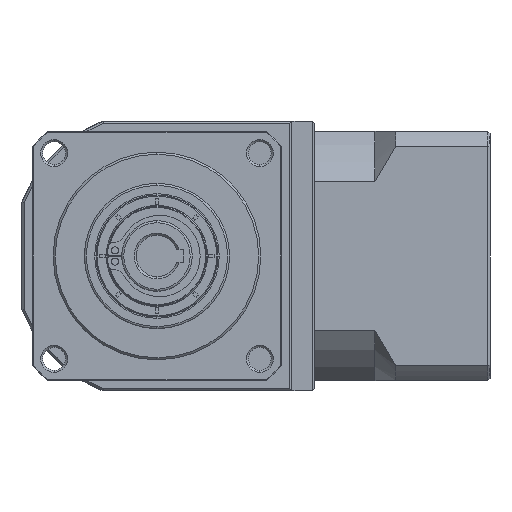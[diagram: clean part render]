
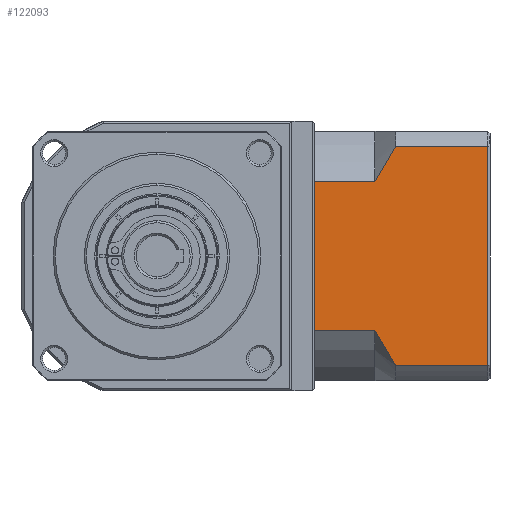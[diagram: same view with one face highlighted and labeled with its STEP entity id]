
A CAD part, left-side view. The second image highlights one B-rep face of the part: STEP entity #122093.
In plain terms, the highlighted planar face has unit normal (-1, 0, 0).
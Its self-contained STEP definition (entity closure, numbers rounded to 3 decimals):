
#701 = CARTESIAN_POINT ( 'NONE',  ( -26.181, -74.918, -106.429 ) ) ;
#3729 = EDGE_CURVE ( 'NONE', #83821, #89816, #16754, .T. ) ;
#4557 = CARTESIAN_POINT ( 'NONE',  ( -26.181, -79.918, -98. ) ) ;
#4931 = CARTESIAN_POINT ( 'NONE',  ( -26.181, -79.918, -98. ) ) ;
#5427 = CARTESIAN_POINT ( 'NONE',  ( -26.181, -79.017, -149.552 ) ) ;
#13553 = PLANE ( 'NONE',  #59898 ) ;
#16754 = LINE ( 'NONE', #39393, #78887 ) ;
#17188 = CARTESIAN_POINT ( 'NONE',  ( -26.181, -78.145, -100.738 ) ) ;
#20806 = LINE ( 'NONE', #129009, #82870 ) ;
#23873 = VECTOR ( 'NONE', #69803, 1000. ) ;
#26275 = ORIENTED_EDGE ( 'NONE', *, *, #71115, .T. ) ;
#28971 = CARTESIAN_POINT ( 'NONE',  ( -26.181, -75.666, -104.977 ) ) ;
#30523 = CARTESIAN_POINT ( 'NONE',  ( -26.181, -74.918, -142.485 ) ) ;
#31974 = EDGE_LOOP ( 'NONE', ( #122064, #124163, #81100, #26275, #52847, #86564, #109392, #51503 ) ) ;
#39393 = CARTESIAN_POINT ( 'NONE',  ( -26.181, -74.918, -150.915 ) ) ;
#40149 = LINE ( 'NONE', #60772, #98618 ) ;
#41979 = VECTOR ( 'NONE', #69238, 1000. ) ;
#51503 = ORIENTED_EDGE ( 'NONE', *, *, #141548, .T. ) ;
#51922 = CARTESIAN_POINT ( 'NONE',  ( -26.181, -75.668, -143.941 ) ) ;
#51985 = CARTESIAN_POINT ( 'NONE',  ( -26.181, -79.918, -150.915 ) ) ;
#52847 = ORIENTED_EDGE ( 'NONE', *, *, #57101, .F. ) ;
#57101 = EDGE_CURVE ( 'NONE', #79700, #144345, #113472, .T. ) ;
#57385 = VERTEX_POINT ( 'NONE', #30523 ) ;
#59898 = AXIS2_PLACEMENT_3D ( 'NONE', #130573, #60498, #142297 ) ;
#60498 = DIRECTION ( 'NONE',  ( 1., 0., 0. ) ) ;
#60772 = CARTESIAN_POINT ( 'NONE',  ( -26.181, -102.118, -154.457 ) ) ;
#67744 = EDGE_CURVE ( 'NONE', #79700, #79577, #135248, .T. ) ;
#69058 = CARTESIAN_POINT ( 'NONE',  ( -26.181, -60.418, -106.429 ) ) ;
#69238 = DIRECTION ( 'NONE',  ( 0., 0., -1. ) ) ;
#69669 = LINE ( 'NONE', #145381, #131868 ) ;
#69803 = DIRECTION ( 'NONE',  ( 0., -1., 0. ) ) ;
#71115 = EDGE_CURVE ( 'NONE', #101742, #144345, #106757, .T. ) ;
#71384 = EDGE_CURVE ( 'NONE', #101742, #135399, #20806, .T. ) ;
#74862 = DIRECTION ( 'NONE',  ( 0., 1., 0. ) ) ;
#75393 = CARTESIAN_POINT ( 'NONE',  ( -26.181, -78.143, -148.172 ) ) ;
#78887 = VECTOR ( 'NONE', #149684, 1000. ) ;
#79577 = VERTEX_POINT ( 'NONE', #111621 ) ;
#79700 = VERTEX_POINT ( 'NONE', #69058 ) ;
#81100 = ORIENTED_EDGE ( 'NONE', *, *, #71384, .F. ) ;
#82870 = VECTOR ( 'NONE', #140735, 1000. ) ;
#83821 = VERTEX_POINT ( 'NONE', #123886 ) ;
#86564 = ORIENTED_EDGE ( 'NONE', *, *, #67744, .T. ) ;
#87144 = CARTESIAN_POINT ( 'NONE',  ( -26.181, -79.918, -150.915 ) ) ;
#89816 = VERTEX_POINT ( 'NONE', #51985 ) ;
#95390 = EDGE_CURVE ( 'NONE', #83821, #135399, #40149, .T. ) ;
#96311 = CARTESIAN_POINT ( 'NONE',  ( -26.181, -102.118, -98. ) ) ;
#98618 = VECTOR ( 'NONE', #143048, 1000. ) ;
#98936 = CARTESIAN_POINT ( 'NONE',  ( -26.181, -76.469, -103.546 ) ) ;
#100514 = B_SPLINE_CURVE_WITH_KNOTS ( 'NONE', 3,
 ( #133695, #51922, #145398, #75393, #5427, #87144 ),
 .UNSPECIFIED., .F., .F.,
 ( 4, 2, 4 ),
 ( 0.1, 0.104, 0.109 ),
 .UNSPECIFIED. ) ;
#101742 = VERTEX_POINT ( 'NONE', #4557 ) ;
#106757 = B_SPLINE_CURVE_WITH_KNOTS ( 'NONE', 3,
 ( #4931, #145415, #17188, #98936, #28971, #110706 ),
 .UNSPECIFIED., .F., .F.,
 ( 4, 2, 4 ),
 ( 0.052, 0.057, 0.062 ),
 .UNSPECIFIED. ) ;
#109392 = ORIENTED_EDGE ( 'NONE', *, *, #139979, .F. ) ;
#110706 = CARTESIAN_POINT ( 'NONE',  ( -26.181, -74.918, -106.429 ) ) ;
#111621 = CARTESIAN_POINT ( 'NONE',  ( -26.181, -60.418, -142.485 ) ) ;
#113472 = LINE ( 'NONE', #139863, #23873 ) ;
#118833 = FACE_OUTER_BOUND ( 'NONE', #31974, .T. ) ;
#122064 = ORIENTED_EDGE ( 'NONE', *, *, #3729, .F. ) ;
#122093 = ADVANCED_FACE ( 'NONE', ( #118833 ), #13553, .F. ) ;
#123886 = CARTESIAN_POINT ( 'NONE',  ( -26.181, -102.118, -150.915 ) ) ;
#124163 = ORIENTED_EDGE ( 'NONE', *, *, #95390, .T. ) ;
#129009 = CARTESIAN_POINT ( 'NONE',  ( -26.181, -74.918, -98. ) ) ;
#130573 = CARTESIAN_POINT ( 'NONE',  ( -26.181, -102.618, -154.457 ) ) ;
#131868 = VECTOR ( 'NONE', #74862, 1000. ) ;
#133695 = CARTESIAN_POINT ( 'NONE',  ( -26.181, -74.918, -142.485 ) ) ;
#135248 = LINE ( 'NONE', #150509, #41979 ) ;
#135399 = VERTEX_POINT ( 'NONE', #96311 ) ;
#139863 = CARTESIAN_POINT ( 'NONE',  ( -26.181, -74.918, -106.429 ) ) ;
#139979 = EDGE_CURVE ( 'NONE', #57385, #79577, #69669, .T. ) ;
#140735 = DIRECTION ( 'NONE',  ( 0., -1., 0. ) ) ;
#141548 = EDGE_CURVE ( 'NONE', #57385, #89816, #100514, .T. ) ;
#142297 = DIRECTION ( 'NONE',  ( 0., 1., 0. ) ) ;
#143048 = DIRECTION ( 'NONE',  ( 0., 0., 1. ) ) ;
#144345 = VERTEX_POINT ( 'NONE', #701 ) ;
#145381 = CARTESIAN_POINT ( 'NONE',  ( -26.181, -74.918, -142.485 ) ) ;
#145398 = CARTESIAN_POINT ( 'NONE',  ( -26.181, -76.469, -145.367 ) ) ;
#145415 = CARTESIAN_POINT ( 'NONE',  ( -26.181, -79.018, -99.36 ) ) ;
#149684 = DIRECTION ( 'NONE',  ( 0., 1., 0. ) ) ;
#150509 = CARTESIAN_POINT ( 'NONE',  ( -26.181, -60.418, -154.457 ) ) ;
